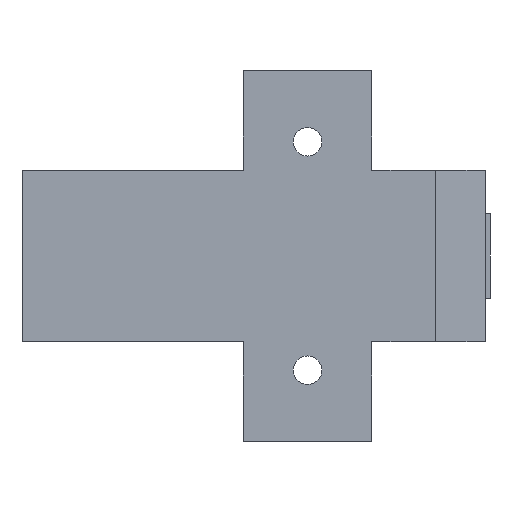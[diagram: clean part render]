
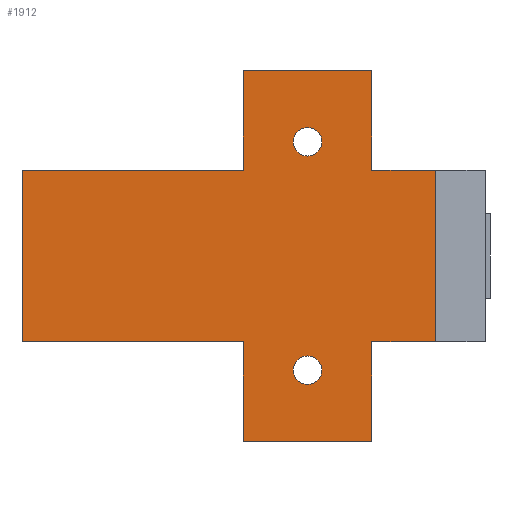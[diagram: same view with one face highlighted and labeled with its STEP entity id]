
A CAD part, left-side view. The second image highlights one B-rep face of the part: STEP entity #1912.
In plain terms, the highlighted planar face has unit normal (-1, 0, 0).
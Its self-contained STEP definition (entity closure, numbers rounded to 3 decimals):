
#150 = VERTEX_POINT ( 'NONE', #3220 ) ;
#159 = VERTEX_POINT ( 'NONE', #3228 ) ;
#327 = VERTEX_POINT ( 'NONE', #3246 ) ;
#330 = VERTEX_POINT ( 'NONE', #3249 ) ;
#331 = VERTEX_POINT ( 'NONE', #3250 ) ;
#333 = VERTEX_POINT ( 'NONE', #3252 ) ;
#386 = VERTEX_POINT ( 'NONE', #3305 ) ;
#408 = VERTEX_POINT ( 'NONE', #2126 ) ;
#410 = VERTEX_POINT ( 'NONE', #2128 ) ;
#444 = VERTEX_POINT ( 'NONE', #2162 ) ;
#453 = VERTEX_POINT ( 'NONE', #2171 ) ;
#461 = VERTEX_POINT ( 'NONE', #2179 ) ;
#462 = VERTEX_POINT ( 'NONE', #2180 ) ;
#467 = VERTEX_POINT ( 'NONE', #2185 ) ;
#472 = VERTEX_POINT ( 'NONE', #2190 ) ;
#473 = VERTEX_POINT ( 'NONE', #2191 ) ;
#489 = VECTOR ( 'NONE', #1966, 1000. ) ;
#514 = AXIS2_PLACEMENT_3D ( 'NONE', #1586, #1582, #1590 ) ;
#522 = VECTOR ( 'NONE', #1958, 1000. ) ;
#529 = CIRCLE ( 'NONE', #553, 2. ) ;
#531 = VECTOR ( 'NONE', #1977, 1000. ) ;
#547 = AXIS2_PLACEMENT_3D ( 'NONE', #1983, #1984, #1985 ) ;
#553 = AXIS2_PLACEMENT_3D ( 'NONE', #1979, #1980, #1981 ) ;
#569 = VECTOR ( 'NONE', #1947, 1000. ) ;
#585 = VECTOR ( 'NONE', #1955, 1000. ) ;
#637 = VECTOR ( 'NONE', #1869, 1000. ) ;
#641 = VECTOR ( 'NONE', #1963, 1000. ) ;
#657 = VECTOR ( 'NONE', #1974, 1000. ) ;
#659 = VECTOR ( 'NONE', #1969, 1000. ) ;
#673 = VECTOR ( 'NONE', #1952, 1000. ) ;
#689 = CIRCLE ( 'NONE', #547, 2. ) ;
#703 = VECTOR ( 'NONE', #1971, 1000. ) ;
#704 = VECTOR ( 'NONE', #1960, 1000. ) ;
#798 = EDGE_CURVE ( 'NONE', #410, #461, #2379, .T. ) ;
#802 = EDGE_CURVE ( 'NONE', #408, #386, #2276, .T. ) ;
#885 = ORIENTED_EDGE ( 'NONE', *, *, #3109, .F. ) ;
#886 = ORIENTED_EDGE ( 'NONE', *, *, #802, .F. ) ;
#887 = ORIENTED_EDGE ( 'NONE', *, *, #798, .T. ) ;
#888 = ORIENTED_EDGE ( 'NONE', *, *, #3108, .T. ) ;
#889 = ORIENTED_EDGE ( 'NONE', *, *, #3107, .T. ) ;
#890 = ORIENTED_EDGE ( 'NONE', *, *, #3106, .T. ) ;
#891 = ORIENTED_EDGE ( 'NONE', *, *, #3105, .T. ) ;
#892 = ORIENTED_EDGE ( 'NONE', *, *, #3104, .F. ) ;
#893 = ORIENTED_EDGE ( 'NONE', *, *, #3103, .F. ) ;
#894 = ORIENTED_EDGE ( 'NONE', *, *, #3102, .T. ) ;
#895 = ORIENTED_EDGE ( 'NONE', *, *, #3101, .F. ) ;
#896 = ORIENTED_EDGE ( 'NONE', *, *, #3100, .F. ) ;
#897 = ORIENTED_EDGE ( 'NONE', *, *, #3091, .F. ) ;
#898 = ORIENTED_EDGE ( 'NONE', *, *, #3099, .F. ) ;
#899 = ORIENTED_EDGE ( 'NONE', *, *, #3096, .T. ) ;
#900 = ORIENTED_EDGE ( 'NONE', *, *, #3098, .F. ) ;
#1580 = FACE_BOUND ( 'NONE', #3200, .T. ) ;
#1582 = DIRECTION ( 'NONE',  ( 1., 0., 0. ) ) ;
#1585 = FACE_OUTER_BOUND ( 'NONE', #3185, .T. ) ;
#1586 = CARTESIAN_POINT ( 'NONE',  ( 0., -12.007, -12. ) ) ;
#1588 = FACE_BOUND ( 'NONE', #3196, .T. ) ;
#1589 = PLANE ( 'NONE',  #514 ) ;
#1590 = DIRECTION ( 'NONE',  ( 0., 0., -1. ) ) ;
#1841 = LINE ( 'NONE', #1883, #569 ) ;
#1867 = LINE ( 'NONE', #1868, #637 ) ;
#1868 = CARTESIAN_POINT ( 'NONE',  ( 0., -12.007, -12. ) ) ;
#1869 = DIRECTION ( 'NONE',  ( 0., 1., 0. ) ) ;
#1881 = LINE ( 'NONE', #1959, #704 ) ;
#1883 = CARTESIAN_POINT ( 'NONE',  ( 0., -12.007, 12. ) ) ;
#1912 = ADVANCED_FACE ( 'NONE', ( #1585, #1580, #1588 ), #1589, .F. ) ;
#1947 = DIRECTION ( 'NONE',  ( 0., 1., 0. ) ) ;
#1950 = LINE ( 'NONE', #1951, #673 ) ;
#1951 = CARTESIAN_POINT ( 'NONE',  ( 0., 9., -26. ) ) ;
#1952 = DIRECTION ( 'NONE',  ( 0., 0., 1. ) ) ;
#1953 = LINE ( 'NONE', #1954, #585 ) ;
#1954 = CARTESIAN_POINT ( 'NONE',  ( 0., 40., -12. ) ) ;
#1955 = DIRECTION ( 'NONE',  ( 0., 0., 1. ) ) ;
#1956 = LINE ( 'NONE', #1957, #522 ) ;
#1957 = CARTESIAN_POINT ( 'NONE',  ( 0., 9., -26. ) ) ;
#1958 = DIRECTION ( 'NONE',  ( 0., 0., 1. ) ) ;
#1959 = CARTESIAN_POINT ( 'NONE',  ( 0., -9., -26. ) ) ;
#1960 = DIRECTION ( 'NONE',  ( 0., 1., 0. ) ) ;
#1961 = LINE ( 'NONE', #1962, #641 ) ;
#1962 = CARTESIAN_POINT ( 'NONE',  ( 0., -9., -26. ) ) ;
#1963 = DIRECTION ( 'NONE',  ( 0., 0., 1. ) ) ;
#1964 = LINE ( 'NONE', #1965, #489 ) ;
#1965 = CARTESIAN_POINT ( 'NONE',  ( 0., -12.007, -12. ) ) ;
#1966 = DIRECTION ( 'NONE',  ( 0., 1., 0. ) ) ;
#1967 = LINE ( 'NONE', #1968, #659 ) ;
#1968 = CARTESIAN_POINT ( 'NONE',  ( 0., -17.9, 30.452 ) ) ;
#1969 = DIRECTION ( 'NONE',  ( 0., 0., -1. ) ) ;
#1970 = CARTESIAN_POINT ( 'NONE',  ( 0., -12.007, 12. ) ) ;
#1971 = DIRECTION ( 'NONE',  ( 0., 1., 0. ) ) ;
#1972 = LINE ( 'NONE', #1973, #657 ) ;
#1973 = CARTESIAN_POINT ( 'NONE',  ( 0., -9., -26. ) ) ;
#1974 = DIRECTION ( 'NONE',  ( 0., 0., 1. ) ) ;
#1975 = LINE ( 'NONE', #1976, #531 ) ;
#1976 = CARTESIAN_POINT ( 'NONE',  ( 0., -9., 26. ) ) ;
#1977 = DIRECTION ( 'NONE',  ( 0., 1., 0. ) ) ;
#1979 = CARTESIAN_POINT ( 'NONE',  ( 0., 0., 16. ) ) ;
#1980 = DIRECTION ( 'NONE',  ( 1., 0., 0. ) ) ;
#1981 = DIRECTION ( 'NONE',  ( 0., 0., -1. ) ) ;
#1983 = CARTESIAN_POINT ( 'NONE',  ( 0., 0., -16. ) ) ;
#1984 = DIRECTION ( 'NONE',  ( -1., 0., 0. ) ) ;
#1985 = DIRECTION ( 'NONE',  ( 0., 0., 1. ) ) ;
#2126 = CARTESIAN_POINT ( 'NONE',  ( 0., 0., -18. ) ) ;
#2128 = CARTESIAN_POINT ( 'NONE',  ( 0., 0., 18. ) ) ;
#2162 = CARTESIAN_POINT ( 'NONE',  ( 0., -17.9, 12. ) ) ;
#2171 = CARTESIAN_POINT ( 'NONE',  ( 0., -9., 26. ) ) ;
#2179 = CARTESIAN_POINT ( 'NONE',  ( 0., 0., 14. ) ) ;
#2180 = CARTESIAN_POINT ( 'NONE',  ( 0., -9., 12. ) ) ;
#2185 = CARTESIAN_POINT ( 'NONE',  ( 0., -9., -12. ) ) ;
#2190 = CARTESIAN_POINT ( 'NONE',  ( 0., -17.9, -12. ) ) ;
#2191 = CARTESIAN_POINT ( 'NONE',  ( 0., -9., -26. ) ) ;
#2276 = CIRCLE ( 'NONE', #2675, 2. ) ;
#2370 = AXIS2_PLACEMENT_3D ( 'NONE', #2783, #2784, #2785 ) ;
#2379 = CIRCLE ( 'NONE', #2370, 2. ) ;
#2675 = AXIS2_PLACEMENT_3D ( 'NONE', #2794, #2795, #2796 ) ;
#2719 = LINE ( 'NONE', #1970, #703 ) ;
#2783 = CARTESIAN_POINT ( 'NONE',  ( 0., 0., 16. ) ) ;
#2784 = DIRECTION ( 'NONE',  ( 1., 0., 0. ) ) ;
#2785 = DIRECTION ( 'NONE',  ( 0., 0., -1. ) ) ;
#2794 = CARTESIAN_POINT ( 'NONE',  ( 0., 0., -16. ) ) ;
#2795 = DIRECTION ( 'NONE',  ( -1., 0., 0. ) ) ;
#2796 = DIRECTION ( 'NONE',  ( 0., 0., 1. ) ) ;
#3091 = EDGE_CURVE ( 'NONE', #331, #327, #1867, .T. ) ;
#3096 = EDGE_CURVE ( 'NONE', #333, #330, #1841, .T. ) ;
#3098 = EDGE_CURVE ( 'NONE', #333, #159, #1950, .T. ) ;
#3099 = EDGE_CURVE ( 'NONE', #327, #330, #1953, .T. ) ;
#3100 = EDGE_CURVE ( 'NONE', #150, #331, #1956, .T. ) ;
#3101 = EDGE_CURVE ( 'NONE', #473, #150, #1881, .T. ) ;
#3102 = EDGE_CURVE ( 'NONE', #473, #467, #1961, .T. ) ;
#3103 = EDGE_CURVE ( 'NONE', #472, #467, #1964, .T. ) ;
#3104 = EDGE_CURVE ( 'NONE', #444, #472, #1967, .T. ) ;
#3105 = EDGE_CURVE ( 'NONE', #444, #462, #2719, .T. ) ;
#3106 = EDGE_CURVE ( 'NONE', #462, #453, #1972, .T. ) ;
#3107 = EDGE_CURVE ( 'NONE', #453, #159, #1975, .T. ) ;
#3108 = EDGE_CURVE ( 'NONE', #461, #410, #529, .T. ) ;
#3109 = EDGE_CURVE ( 'NONE', #386, #408, #689, .T. ) ;
#3185 = EDGE_LOOP ( 'NONE', ( #900, #899, #898, #897, #896, #895, #894, #893, #892, #891, #890, #889 ) ) ;
#3196 = EDGE_LOOP ( 'NONE', ( #886, #885 ) ) ;
#3200 = EDGE_LOOP ( 'NONE', ( #888, #887 ) ) ;
#3220 = CARTESIAN_POINT ( 'NONE',  ( 0., 9., -26. ) ) ;
#3228 = CARTESIAN_POINT ( 'NONE',  ( 0., 9., 26. ) ) ;
#3246 = CARTESIAN_POINT ( 'NONE',  ( 0., 40., -12. ) ) ;
#3249 = CARTESIAN_POINT ( 'NONE',  ( 0., 40., 12. ) ) ;
#3250 = CARTESIAN_POINT ( 'NONE',  ( 0., 9., -12. ) ) ;
#3252 = CARTESIAN_POINT ( 'NONE',  ( 0., 9., 12. ) ) ;
#3305 = CARTESIAN_POINT ( 'NONE',  ( 0., 0., -14. ) ) ;
